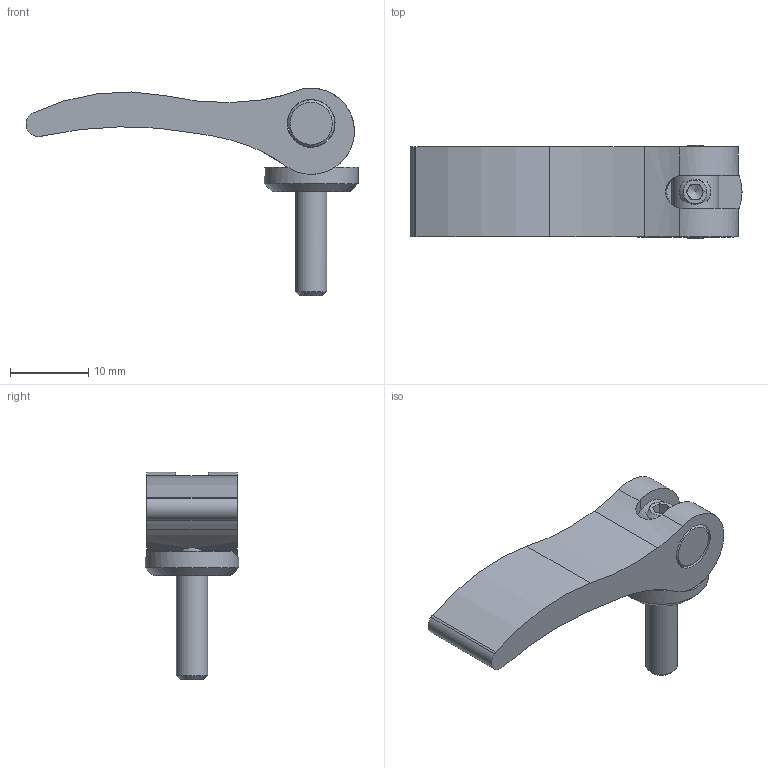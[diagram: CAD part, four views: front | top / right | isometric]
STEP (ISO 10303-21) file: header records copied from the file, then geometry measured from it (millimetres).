
FILE_DESCRIPTION(('STEP AP203'), '1');
FILE_NAME('À00360.11420410', '', ('UNSPECIFIED'), ('UNSPECIFIED'), 'C3D Converter', 'C3D Toolkit', '');
FILE_SCHEMA(('CONFIG_CONTROL_DESIGN'));
Length unit declared in the file: millimetre
Products named in the file (5): А00360.42.03; А00360.42.02; А00360.42.01
Assembly tree (4 placements, depth 2):
  (unnamed)
    А00360.42.03
    А00360.42.02
    А00360.42.01
    (unnamed)
Bounding box: 42.36 x 11.94 x 26.5 mm (x, y, z)
Volume: 2971.1 mm3; surface area: 2636 mm2
Topology: 4 solids, 4 shells, 49 faces, 130 edges, 87 vertices
Faces by surface type: plane 23, cylinder 20, cone 6
Full cylindrical faces by diameter (mm): 3.242 x1, 4 x1, 4.5 x1, 6 x1, 6.1 x2, 11.94 x1
Entity records: 2765 total; most frequent: CARTESIAN_POINT 909, DIRECTION 268, ORIENTED_EDGE 232, EDGE_CURVE 116, AXIS2_PLACEMENT_3D 113, VERTEX_POINT 86, EDGE_LOOP 68, FACE_BOUND 59
